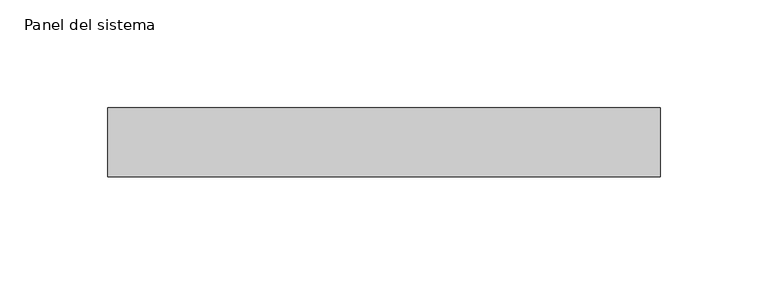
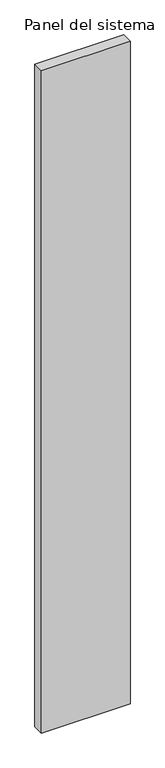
"""IFC4 building model written with IfcOpenShell, lengths in millimetres: plate geometry, Panel del sistema : HIANSA - CHAPA PERFILADA CUBIERTA - MT32F Vert."""

from ifc_helpers import new_model, si_unit, origin, origin_with_axes, place, context, project, spatial, polyline, outline, extrude, source, transform, mapped, element, save


def panel_del_sistema_081031d1(model_context):
    return source(origin(), model_context, "Body", "SweptSolid", [
        extrude(outline(polyline([(127.9999998, -32.0), (-127.9999998, -32.0), (-127.9999998, 0.0), (127.9999998, 0.0), (127.9999998, -32.0)])), origin_with_axes(), (0.0, 0.0, 1.0), 2020.0),
    ])


if __name__ == "__main__":
    model = new_model("IFC4")
    model_context = context("Model", 3, world=origin())
    ifc_project = project(units=[si_unit("LENGTHUNIT", "METRE", prefix="MILLI")], contexts=[model_context])
    site = spatial("IfcSite", under=ifc_project)
    building = spatial("IfcBuilding", under=site)
    placement = place(None, origin())
    panel_del_sistema_shape = panel_del_sistema_081031d1(model_context)
    element("IfcPlate", 1, ObjectType="Panel del sistema : HIANSA - CHAPA PERFILADA CUBIERTA - MT32F Vert", at=placement, inside=building, context=model_context, shape_type="MappedRepresentation", body=[
        mapped(panel_del_sistema_shape, transform((0.0, 0.0, 0.0), x_axis=(1.0, 0.0, 0.0), y_axis=(0.0, 1.0, 0.0), z_axis=(0.0, 0.0, 1.0))),
    ])
    save(model, "model.ifc")
